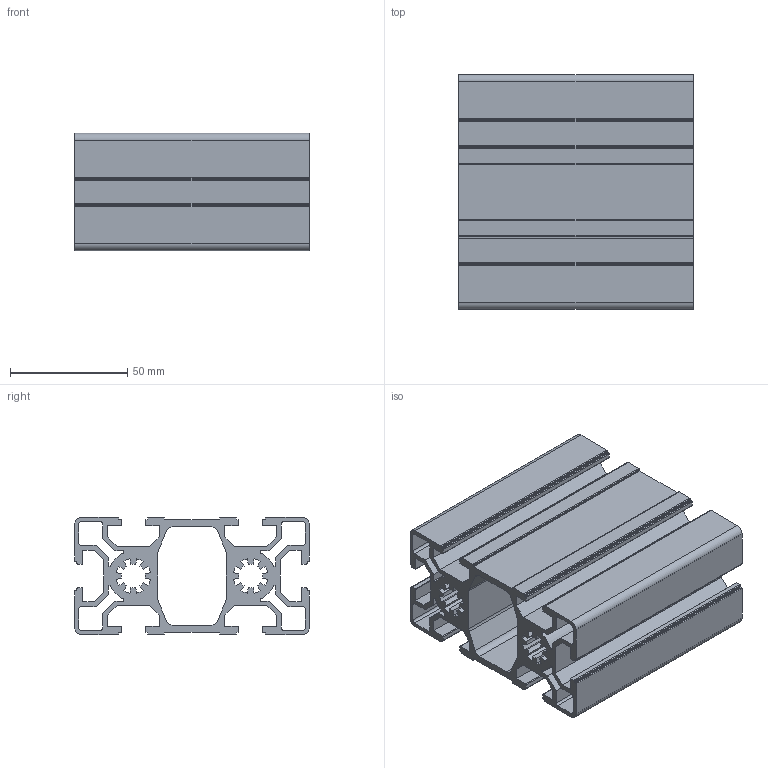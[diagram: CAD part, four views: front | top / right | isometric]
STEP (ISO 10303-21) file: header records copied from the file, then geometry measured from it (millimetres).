
FILE_DESCRIPTION(('STEP AP203'), '1');
FILE_NAME('Ïðîôèëü àëþìèíèåâûé HXB50100E-10', '2022-05-04T13:07:24', ('Test'), ('Test'), 'ASCON STEP Converter 1.6', 'ASCON Math Kernel', '');
FILE_SCHEMA(('CONFIG_CONTROL_DESIGN'));
Length unit declared in the file: millimetre
Bounding box: 100 x 100 x 50 mm (x, y, z)
Volume: 166560.3 mm3; surface area: 113109 mm2
Topology: 1 solids, 1 shells, 310 faces, 924 edges, 616 vertices
Faces by surface type: plane 178, cylinder 132
Entity records: 13000 total; most frequent: CARTESIAN_POINT 1851, ORIENTED_EDGE 1848, DIRECTION 1810, EDGE_CURVE 924, LINE 660, VECTOR 660, VERTEX_POINT 616, AXIS2_PLACEMENT_3D 575
